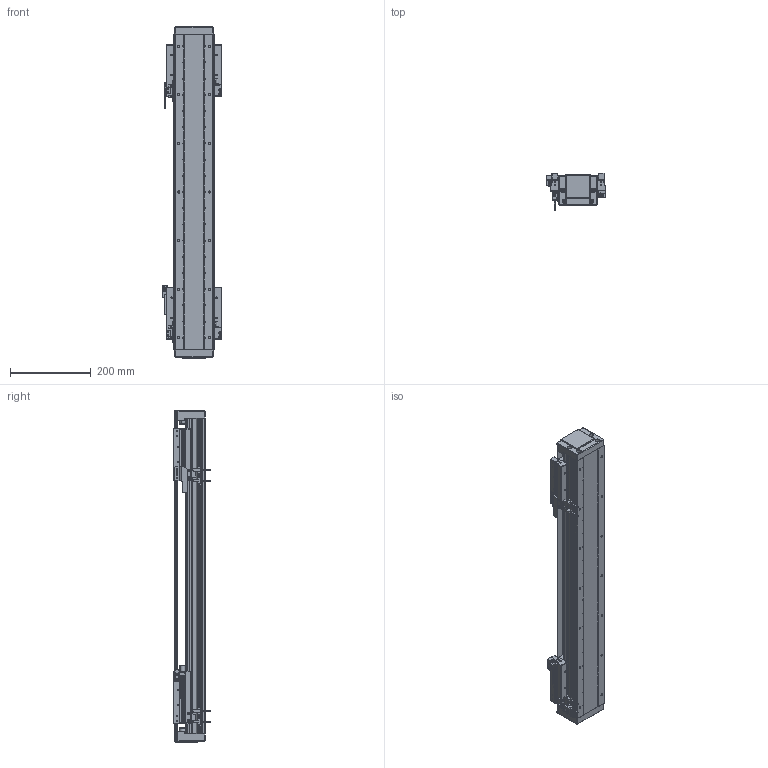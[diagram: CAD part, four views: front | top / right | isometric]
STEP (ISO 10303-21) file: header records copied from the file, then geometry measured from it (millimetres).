
FILE_DESCRIPTION (( 'STEP AP203' ), '1' );
FILE_NAME ('DA-B95-2-B15-T440-C010-0.2 直线电机.STEP', '2023-05-06T06:24:23', ( '微软用户' ), ( '微软中国' ), 'SwSTEP 2.0', 'SolidWorks 2019', '' );
FILE_SCHEMA (( 'CONFIG_CONTROL_DESIGN' ));
Length unit declared in the file: millimetre
Products named in the file (32): 葩璃 BKMA01-W060-TRL^DA-A95-B15-T-C010-0.2-N 眻盄萇儂; B15 XD-U-02L ｴﾅﾕ､ｳﾟ^DA-A95-B15-T-C010-0.2-N ﾖｱﾏﾟｵ扈銈XD-U-02L; 66245-BU95-V-00 珨极趙賑雄怢啣; 葩璃 DA95-B15-DP--B-00 菜えB^66245-BU95-V 幗紩賑怢; ｸｴｼ DA95-Txxx-002-00 ｸﾇｰ蘓DA-A95-B15-T-C010-0.2-N ﾖｱﾏﾟｵ扈銈T+30; 葩璃 DA95-B15-DP-A-00 菜えA^66245-BU95-V 幗紩賑怢; 66245-BU95-V 幗紩賑怢; 复件 DA95-MFP-01 密封片^66245-BU95-V 滚珠滑台; PM-T45 光电开关^DA-A95-B15-T-C010-0.2-N 直线电机; 复件 DA95-HK-GT-00 滑块钢轨^66245-BU95-V-00 一体化滑动台板; 复件 DA95-B15-YB-B-00 压板B^66245-BU95-V 滚珠滑台; 复件 DA95-DK-00 挡块^66245-BU95-V 滚珠滑台; DA95-HXJ-00 缓冲橡胶^DA-A95-B15-T-C010-0.2-N 直线电机; IU-BU95-L-00 菁釱_L780; 葩璃 BKM015-W060-C1-TP-DA-0.2^DA-A95-B15-T-C010-0.2-N 眻盄萇儂; IU-BU95-L 菁釱絳寢; DA-B95-2-B15-T440-C010-0.2 眻盄萇儂; 复件 DKW-GYP-ZJ-00 中间光电感应片^DA-A95-B15-T-C010-0.2-N 直线电机; DA95-DG-H-01^DA-A95-B15-T-C010-0.2-N 眻盄萇儂; 复件 DA95-DB-00  挡板^66245-BU95-V 滚珠滑台; 复件 纯铜油杯 6x6mm^66245-BU95-V 滚珠滑台; 复件 六角薄螺母 M3^DA-A95-B15-T-C010-0.2-N 直线电机_GB_FASTENER_NUT_STNAB M3-C; LMDK-2-R001-V5-L02-C1-F00，0.2M 读数头^DA-A95-B15-T-C010-0.2-N 直线电机_DMA-010-0.2; 葩璃 DA95-GT-T-00^IU-BU95-L 菁釱絳寢_DA95; 复件 66245-BU95-HT-V-01 滑动台板^66245-BU95-V-00 一体化滑动台板; DA-A95-GYP-00 光电感应片^DA-A95-B15-T-C010-0.2-N 直线电机; 复件 DKW-KGZ-ZJ-00 中间光电开关支架^DA-A95-B15-T-C010-0.2-N 直线电机; 葩璃 PM-Y45^DA-A95-B15-T-C010-0.2-N 眻盄萇儂; 复件 DA95-B15-YB-A-00 压板A^66245-BU95-V 滚珠滑台; 复件 DKW-HXJ-JY-00 缓冲橡胶^DA-A95-B15-T-C010-0.2-N 直线电机
Assembly tree (76 placements, depth 4):
  DA-B95-2-B15-T440-C010-0.2 眻盄萇儂
    IU-BU95-L 菁釱絳寢
      IU-BU95-L-00 菁釱_L780
      葩璃 DA95-GT-T-00^IU-BU95-L 菁釱絳寢_DA95  x2
    66245-BU95-V 幗紩賑怢
      66245-BU95-V-00 珨极趙賑雄怢啣
        复件 66245-BU95-HT-V-01 滑动台板^66245-BU95-V-00 一体化滑动台板
        复件 DA95-HK-GT-00 滑块钢轨^66245-BU95-V-00 一体化滑动台板  x2
      葩璃 DA95-B15-DP-A-00 菜えA^66245-BU95-V 幗紩賑怢
      复件 DA95-B15-YB-A-00 压板A^66245-BU95-V 滚珠滑台
      复件 DA95-B15-YB-B-00 压板B^66245-BU95-V 滚珠滑台
      复件 DA95-DB-00  挡板^66245-BU95-V 滚珠滑台  x4
      复件 DA95-DK-00 挡块^66245-BU95-V 滚珠滑台  x2
      复件 DA95-MFP-01 密封片^66245-BU95-V 滚珠滑台  x4
      复件 纯铜油杯 6x6mm^66245-BU95-V 滚珠滑台  x2
      葩璃 DA95-B15-DP--B-00 菜えB^66245-BU95-V 幗紩賑怢
    66245-BU95-V 幗紩賑怢
      66245-BU95-V-00 珨极趙賑雄怢啣
        复件 66245-BU95-HT-V-01 滑动台板^66245-BU95-V-00 一体化滑动台板
        复件 DA95-HK-GT-00 滑块钢轨^66245-BU95-V-00 一体化滑动台板  x2
      葩璃 DA95-B15-DP-A-00 菜えA^66245-BU95-V 幗紩賑怢
      复件 DA95-B15-YB-A-00 压板A^66245-BU95-V 滚珠滑台
      复件 DA95-B15-YB-B-00 压板B^66245-BU95-V 滚珠滑台
      复件 DA95-DB-00  挡板^66245-BU95-V 滚珠滑台  x4
      复件 DA95-DK-00 挡块^66245-BU95-V 滚珠滑台  x2
      复件 DA95-MFP-01 密封片^66245-BU95-V 滚珠滑台  x4
      复件 纯铜油杯 6x6mm^66245-BU95-V 滚珠滑台  x2
      葩璃 DA95-B15-DP--B-00 菜えB^66245-BU95-V 幗紩賑怢
    DA-A95-GYP-00 光电感应片^DA-A95-B15-T-C010-0.2-N 直线电机  x2
    LMDK-2-R001-V5-L02-C1-F00，0.2M 读数头^DA-A95-B15-T-C010-0.2-N 直线电机_DMA-010-0.2  x2
    复件 DKW-KGZ-ZJ-00 中间光电开关支架^DA-A95-B15-T-C010-0.2-N 直线电机
    葩璃 PM-Y45^DA-A95-B15-T-C010-0.2-N 眻盄萇儂
    复件 DKW-GYP-ZJ-00 中间光电感应片^DA-A95-B15-T-C010-0.2-N 直线电机
    葩璃 BKM015-W060-C1-TP-DA-0.2^DA-A95-B15-T-C010-0.2-N 眻盄萇儂  x2
    复件 DKW-HXJ-JY-00 缓冲橡胶^DA-A95-B15-T-C010-0.2-N 直线电机  x2
    PM-T45 光电开关^DA-A95-B15-T-C010-0.2-N 直线电机  x4
    B15 XD-U-02L ｴﾅﾕ､ｳﾟ^DA-A95-B15-T-C010-0.2-N ﾖｱﾏﾟｵ扈銈XD-U-02L
    DA95-DG-H-01^DA-A95-B15-T-C010-0.2-N 眻盄萇儂  x2
    ｸｴｼ DA95-Txxx-002-00 ｸﾇｰ蘓DA-A95-B15-T-C010-0.2-N ﾖｱﾏﾟｵ扈銈T+30
    DA95-HXJ-00 缓冲橡胶^DA-A95-B15-T-C010-0.2-N 直线电机  x4
    葩璃 BKMA01-W060-TRL^DA-A95-B15-T-C010-0.2-N 眻盄萇儂
    复件 六角薄螺母 M3^DA-A95-B15-T-C010-0.2-N 直线电机_GB_FASTENER_NUT_STNAB M3-C  x6
Bounding box: 145.4 x 90.2 x 820 mm (x, y, z)
Volume: 3706221.9 mm3; surface area: 1122533.1 mm2
Topology: 71 solids, 89 shells, 4186 faces, 10744 edges, 6605 vertices
Faces by surface type: cylinder 1780, plane 1454, cone 544, bspline 344, torus 60, sphere 4
Entity records: 81405 total; most frequent: CARTESIAN_POINT 22472, ORIENTED_EDGE 11426, DIRECTION 11291, EDGE_CURVE 5713, AXIS2_PLACEMENT_3D 4207, VERTEX_POINT 3620, VECTOR 2877, LINE 2877
